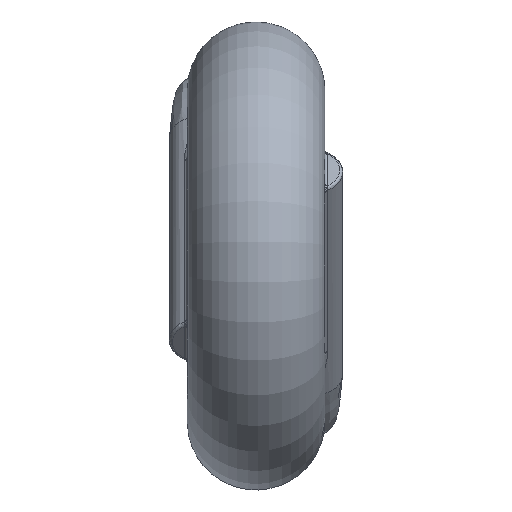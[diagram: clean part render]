
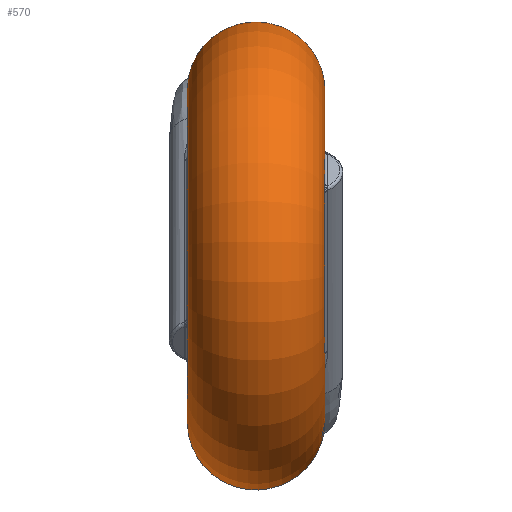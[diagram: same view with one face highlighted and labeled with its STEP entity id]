
A CAD part, left-side view. The second image highlights one B-rep face of the part: STEP entity #570.
In plain terms, the highlighted toroidal (fillet/blend) face has major radius 5.545 mm and minor radius 2.305 mm.
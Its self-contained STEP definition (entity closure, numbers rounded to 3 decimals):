
#20=TOROIDAL_SURFACE('',#632,5.545,2.305);
#81=B_SPLINE_CURVE_WITH_KNOTS('',3,(#1674,#1675,#1676,#1677,#1678,#1679,
#1680,#1681,#1682,#1683,#1684,#1685,#1686,#1687,#1688,#1689,#1690,#1691,
#1692),.UNSPECIFIED.,.F.,.F.,(4,1,1,1,1,1,1,1,1,1,1,1,1,1,1,1,4),(-0.811,
-0.753,-0.695,-0.637,-0.579,
-0.521,-0.463,-0.405,-0.348,
-0.29,-0.261,-0.232,-0.174,
-0.116,-0.087,-0.058,0.),
 .UNSPECIFIED.);
#82=B_SPLINE_CURVE_WITH_KNOTS('',3,(#1698,#1699,#1700,#1701,#1702,#1703,
#1704,#1705,#1706,#1707,#1708,#1709,#1710,#1711,#1712,#1713,#1714,#1715),
 .UNSPECIFIED.,.F.,.F.,(4,1,1,1,1,1,1,1,1,1,1,1,1,1,1,4),(-0.811,
-0.753,-0.695,-0.637,-0.579,
-0.521,-0.463,-0.405,-0.348,
-0.319,-0.29,-0.232,-0.174,
-0.116,-0.058,0.),.UNSPECIFIED.);
#97=FACE_BOUND('',#171,.T.);
#129=FACE_OUTER_BOUND('',#170,.T.);
#170=EDGE_LOOP('',(#453,#454));
#171=EDGE_LOOP('',(#455,#456));
#215=CIRCLE('',#633,5.545);
#216=CIRCLE('',#634,5.545);
#259=VERTEX_POINT('',#1574);
#260=VERTEX_POINT('',#1672);
#261=VERTEX_POINT('',#1696);
#262=VERTEX_POINT('',#1697);
#330=EDGE_CURVE('',#260,#259,#81,.T.);
#332=EDGE_CURVE('',#261,#262,#82,.T.);
#333=EDGE_CURVE('',#261,#262,#215,.T.);
#334=EDGE_CURVE('',#260,#259,#216,.T.);
#453=ORIENTED_EDGE('',*,*,#332,.T.);
#454=ORIENTED_EDGE('',*,*,#333,.F.);
#455=ORIENTED_EDGE('',*,*,#330,.T.);
#456=ORIENTED_EDGE('',*,*,#334,.F.);
#570=ADVANCED_FACE('',(#129,#97),#20,.T.);
#632=AXIS2_PLACEMENT_3D('',#1695,#759,#760);
#633=AXIS2_PLACEMENT_3D('',#1716,#761,#762);
#634=AXIS2_PLACEMENT_3D('',#1717,#763,#764);
#759=DIRECTION('center_axis',(0.,1.,0.));
#760=DIRECTION('ref_axis',(1.,0.,0.));
#761=DIRECTION('center_axis',(0.,-1.,0.));
#762=DIRECTION('ref_axis',(-1.,0.,0.));
#763=DIRECTION('center_axis',(0.,1.,0.));
#764=DIRECTION('ref_axis',(-1.,0.,0.));
#1574=CARTESIAN_POINT('',(4.447,3.8,3.312));
#1672=CARTESIAN_POINT('',(5.386,3.8,1.32));
#1674=CARTESIAN_POINT('Ctrl Pts',(5.386,3.8,1.32));
#1675=CARTESIAN_POINT('Ctrl Pts',(5.509,3.8,1.453));
#1676=CARTESIAN_POINT('Ctrl Pts',(5.771,3.77,1.704));
#1677=CARTESIAN_POINT('Ctrl Pts',(6.179,3.614,2.022));
#1678=CARTESIAN_POINT('Ctrl Pts',(6.549,3.35,2.312));
#1679=CARTESIAN_POINT('Ctrl Pts',(6.825,3.004,2.623));
#1680=CARTESIAN_POINT('Ctrl Pts',(6.957,2.621,2.995));
#1681=CARTESIAN_POINT('Ctrl Pts',(6.91,2.286,3.444));
#1682=CARTESIAN_POINT('Ctrl Pts',(6.697,2.108,3.948));
#1683=CARTESIAN_POINT('Ctrl Pts',(6.371,2.165,4.429));
#1684=CARTESIAN_POINT('Ctrl Pts',(6.061,2.427,4.69));
#1685=CARTESIAN_POINT('Ctrl Pts',(5.827,2.701,4.745));
#1686=CARTESIAN_POINT('Ctrl Pts',(5.608,2.984,4.704));
#1687=CARTESIAN_POINT('Ctrl Pts',(5.366,3.306,4.501));
#1688=CARTESIAN_POINT('Ctrl Pts',(5.138,3.54,4.193));
#1689=CARTESIAN_POINT('Ctrl Pts',(4.946,3.673,3.923));
#1690=CARTESIAN_POINT('Ctrl Pts',(4.743,3.77,3.645));
#1691=CARTESIAN_POINT('Ctrl Pts',(4.571,3.8,3.44));
#1692=CARTESIAN_POINT('Ctrl Pts',(4.447,3.8,3.312));
#1695=CARTESIAN_POINT('Origin',(0.,1.495,0.));
#1696=CARTESIAN_POINT('',(5.386,-0.81,-1.32));
#1697=CARTESIAN_POINT('',(4.447,-0.81,-3.312));
#1698=CARTESIAN_POINT('Ctrl Pts',(5.386,-0.81,-1.32));
#1699=CARTESIAN_POINT('Ctrl Pts',(5.509,-0.81,-1.453));
#1700=CARTESIAN_POINT('Ctrl Pts',(5.771,-0.78,-1.704));
#1701=CARTESIAN_POINT('Ctrl Pts',(6.179,-0.624,-2.022));
#1702=CARTESIAN_POINT('Ctrl Pts',(6.549,-0.36,-2.312));
#1703=CARTESIAN_POINT('Ctrl Pts',(6.825,-0.014,
-2.623));
#1704=CARTESIAN_POINT('Ctrl Pts',(6.957,0.369,-2.995));
#1705=CARTESIAN_POINT('Ctrl Pts',(6.91,0.703,-3.444));
#1706=CARTESIAN_POINT('Ctrl Pts',(6.697,0.883,-3.948));
#1707=CARTESIAN_POINT('Ctrl Pts',(6.425,0.834,-4.349));
#1708=CARTESIAN_POINT('Ctrl Pts',(6.185,0.669,-4.586));
#1709=CARTESIAN_POINT('Ctrl Pts',(5.942,0.436,-4.743));
#1710=CARTESIAN_POINT('Ctrl Pts',(5.657,0.07,-4.746));
#1711=CARTESIAN_POINT('Ctrl Pts',(5.366,-0.316,-4.501));
#1712=CARTESIAN_POINT('Ctrl Pts',(5.092,-0.597,-4.132));
#1713=CARTESIAN_POINT('Ctrl Pts',(4.801,-0.77,-3.713));
#1714=CARTESIAN_POINT('Ctrl Pts',(4.571,-0.81,-3.44));
#1715=CARTESIAN_POINT('Ctrl Pts',(4.447,-0.81,-3.312));
#1716=CARTESIAN_POINT('Origin',(0.,-0.81,0.));
#1717=CARTESIAN_POINT('Origin',(0.,3.8,0.));
